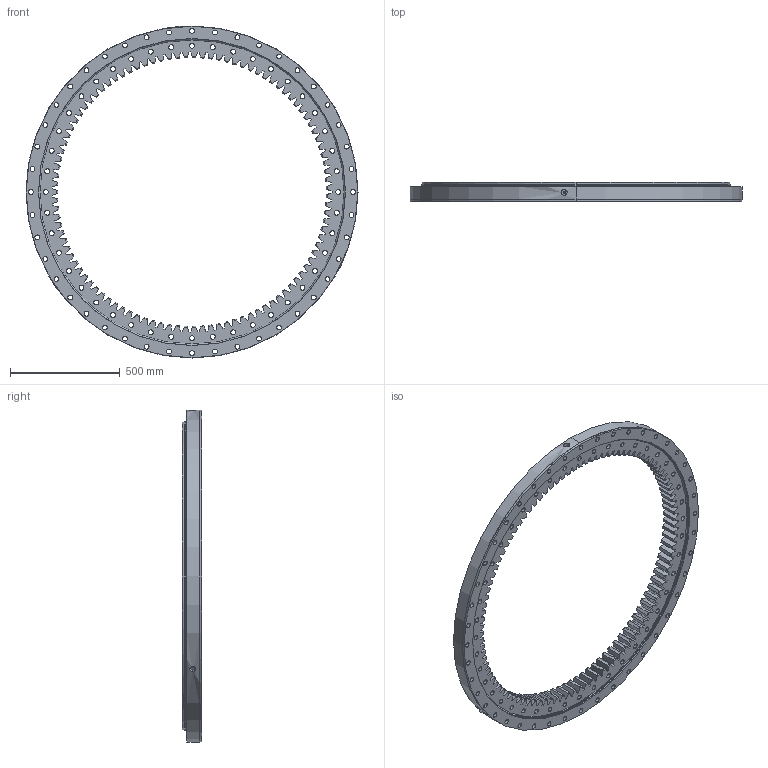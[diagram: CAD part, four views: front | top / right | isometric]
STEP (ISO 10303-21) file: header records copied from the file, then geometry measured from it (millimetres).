
FILE_DESCRIPTION (( 'STEP AP214' ), '1' );
FILE_NAME ('B2130-1-1512AA.STEP', '2022-11-24T06:54:57', ( '' ), ( '' ), 'SwSTEP 2.0', 'SolidWorks 2020', '' );
FILE_SCHEMA (( 'AUTOMOTIVE_DESIGN' ));
Length unit declared in the file: millimetre
Products named in the file (1): B2130-1-1512AA
Bounding box: 1512 x 87 x 1512 mm (x, y, z)
Volume: 38399489.7 mm3; surface area: 3465845.6 mm2
Topology: 4 solids, 4 shells, 871 faces, 2543 edges, 1694 vertices
Faces by surface type: plane 334, cylinder 323, cone 214
Entity records: 30257 total; most frequent: CARTESIAN_POINT 6714, ORIENTED_EDGE 5086, DIRECTION 4721, EDGE_CURVE 2543, AXIS2_PLACEMENT_3D 1730, VERTEX_POINT 1694, LINE 1261, VECTOR 1261
